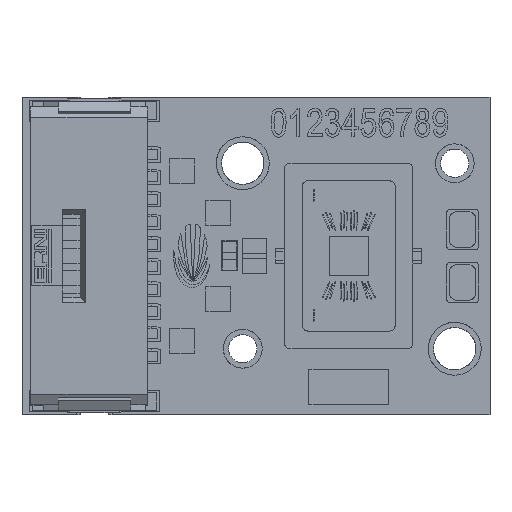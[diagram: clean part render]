
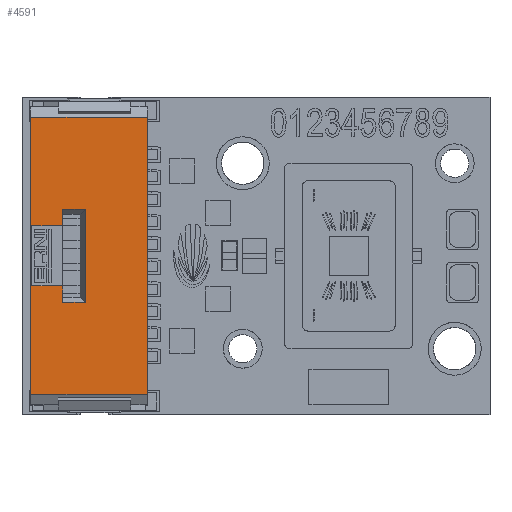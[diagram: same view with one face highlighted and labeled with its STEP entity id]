
A CAD part, top view. The second image highlights one B-rep face of the part: STEP entity #4591.
In plain terms, the highlighted planar face has unit normal (0, 0, 1).
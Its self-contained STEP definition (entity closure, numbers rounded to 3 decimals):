
#16=FACE_BOUND('',#6382,.T.);
#4591=ADVANCED_FACE('',(#5486,#16),#18184,.T.);
#5486=FACE_OUTER_BOUND('',#6381,.T.);
#6381=EDGE_LOOP('',(#7439,#7440,#7441,#7442));
#6382=EDGE_LOOP('',(#7443,#7444,#7445,#7446,#7447,#7448,#7449,#7450));
#7439=ORIENTED_EDGE('',*,*,#12171,.T.);
#7440=ORIENTED_EDGE('',*,*,#12172,.T.);
#7441=ORIENTED_EDGE('',*,*,#12173,.T.);
#7442=ORIENTED_EDGE('',*,*,#12174,.T.);
#7443=ORIENTED_EDGE('',*,*,#12182,.T.);
#7444=ORIENTED_EDGE('',*,*,#12175,.T.);
#7445=ORIENTED_EDGE('',*,*,#12176,.T.);
#7446=ORIENTED_EDGE('',*,*,#12177,.T.);
#7447=ORIENTED_EDGE('',*,*,#12178,.T.);
#7448=ORIENTED_EDGE('',*,*,#12179,.T.);
#7449=ORIENTED_EDGE('',*,*,#12180,.T.);
#7450=ORIENTED_EDGE('',*,*,#12181,.T.);
#12171=EDGE_CURVE('',#16586,#16587,#14551,.T.);
#12172=EDGE_CURVE('',#16587,#16588,#14552,.T.);
#12173=EDGE_CURVE('',#16588,#16589,#14553,.T.);
#12174=EDGE_CURVE('',#16589,#16586,#14554,.T.);
#12175=EDGE_CURVE('',#16590,#16591,#14555,.T.);
#12176=EDGE_CURVE('',#16591,#16592,#14556,.T.);
#12177=EDGE_CURVE('',#16592,#16593,#14557,.T.);
#12178=EDGE_CURVE('',#16593,#16594,#14558,.T.);
#12179=EDGE_CURVE('',#16594,#16595,#14559,.T.);
#12180=EDGE_CURVE('',#16595,#16596,#14560,.T.);
#12181=EDGE_CURVE('',#16596,#16597,#14561,.T.);
#12182=EDGE_CURVE('',#16597,#16590,#14562,.T.);
#14551=B_SPLINE_CURVE_WITH_KNOTS('',1,(#21979,#21980),.UNSPECIFIED.,.F.,
 .F.,(2,2),(0.,6.6),.UNSPECIFIED.);
#14552=B_SPLINE_CURVE_WITH_KNOTS('',1,(#21981,#21982),.UNSPECIFIED.,.F.,
 .F.,(2,2),(0.,15.68),.UNSPECIFIED.);
#14553=B_SPLINE_CURVE_WITH_KNOTS('',1,(#21983,#21984),.UNSPECIFIED.,.F.,
 .F.,(2,2),(0.,6.6),.UNSPECIFIED.);
#14554=B_SPLINE_CURVE_WITH_KNOTS('',1,(#21985,#21986),.UNSPECIFIED.,.F.,
 .F.,(2,2),(0.,15.68),.UNSPECIFIED.);
#14555=B_SPLINE_CURVE_WITH_KNOTS('',1,(#21987,#21988),.UNSPECIFIED.,.F.,
 .F.,(2,2),(0.,1.289),.UNSPECIFIED.);
#14556=B_SPLINE_CURVE_WITH_KNOTS('',1,(#21989,#21990),.UNSPECIFIED.,.F.,
 .F.,(2,2),(0.,0.939),.UNSPECIFIED.);
#14557=B_SPLINE_CURVE_WITH_KNOTS('',1,(#21991,#21992),.UNSPECIFIED.,.F.,
 .F.,(2,2),(0.,1.75),.UNSPECIFIED.);
#14558=B_SPLINE_CURVE_WITH_KNOTS('',1,(#21993,#21994),.UNSPECIFIED.,.F.,
 .F.,(2,2),(0.,3.4),.UNSPECIFIED.);
#14559=B_SPLINE_CURVE_WITH_KNOTS('',1,(#21995,#21996),.UNSPECIFIED.,.F.,
 .F.,(2,2),(0.,1.75),.UNSPECIFIED.);
#14560=B_SPLINE_CURVE_WITH_KNOTS('',1,(#21997,#21998),.UNSPECIFIED.,.F.,
 .F.,(2,2),(0.,0.939),.UNSPECIFIED.);
#14561=B_SPLINE_CURVE_WITH_KNOTS('',1,(#21999,#22000),.UNSPECIFIED.,.F.,
 .F.,(2,2),(0.,1.289),.UNSPECIFIED.);
#14562=B_SPLINE_CURVE_WITH_KNOTS('',1,(#22001,#22002),.UNSPECIFIED.,.F.,
 .F.,(2,2),(0.,5.277),.UNSPECIFIED.);
#16586=VERTEX_POINT('',#21223);
#16587=VERTEX_POINT('',#21224);
#16588=VERTEX_POINT('',#21225);
#16589=VERTEX_POINT('',#21226);
#16590=VERTEX_POINT('',#21227);
#16591=VERTEX_POINT('',#21228);
#16592=VERTEX_POINT('',#21229);
#16593=VERTEX_POINT('',#21230);
#16594=VERTEX_POINT('',#21231);
#16595=VERTEX_POINT('',#21232);
#16596=VERTEX_POINT('',#21233);
#16597=VERTEX_POINT('',#21234);
#18184=PLANE('',#19031);
#19031=AXIS2_PLACEMENT_3D('',#20684,#19820,$);
#19820=DIRECTION('',(0.,0.,1.));
#20684=CARTESIAN_POINT('',(-10.74,9.408,3.527));
#21223=CARTESIAN_POINT('',(-11.4,7.84,3.527));
#21224=CARTESIAN_POINT('',(-18.,7.84,3.527));
#21225=CARTESIAN_POINT('',(-18.,-7.84,3.527));
#21226=CARTESIAN_POINT('',(-11.4,-7.84,3.527));
#21227=CARTESIAN_POINT('',(-14.911,-2.639,3.527));
#21228=CARTESIAN_POINT('',(-16.2,-2.639,3.527));
#21229=CARTESIAN_POINT('',(-16.2,-1.7,3.527));
#21230=CARTESIAN_POINT('',(-17.95,-1.7,3.527));
#21231=CARTESIAN_POINT('',(-17.95,1.7,3.527));
#21232=CARTESIAN_POINT('',(-16.2,1.7,3.527));
#21233=CARTESIAN_POINT('',(-16.2,2.639,3.527));
#21234=CARTESIAN_POINT('',(-14.911,2.639,3.527));
#21979=CARTESIAN_POINT('',(-11.4,7.84,3.527));
#21980=CARTESIAN_POINT('',(-18.,7.84,3.527));
#21981=CARTESIAN_POINT('',(-18.,7.84,3.527));
#21982=CARTESIAN_POINT('',(-18.,-7.84,3.527));
#21983=CARTESIAN_POINT('',(-18.,-7.84,3.527));
#21984=CARTESIAN_POINT('',(-11.4,-7.84,3.527));
#21985=CARTESIAN_POINT('',(-11.4,-7.84,3.527));
#21986=CARTESIAN_POINT('',(-11.4,7.84,3.527));
#21987=CARTESIAN_POINT('',(-14.911,-2.639,3.527));
#21988=CARTESIAN_POINT('',(-16.2,-2.639,3.527));
#21989=CARTESIAN_POINT('',(-16.2,-2.639,3.527));
#21990=CARTESIAN_POINT('',(-16.2,-1.7,3.527));
#21991=CARTESIAN_POINT('',(-16.2,-1.7,3.527));
#21992=CARTESIAN_POINT('',(-17.95,-1.7,3.527));
#21993=CARTESIAN_POINT('',(-17.95,-1.7,3.527));
#21994=CARTESIAN_POINT('',(-17.95,1.7,3.527));
#21995=CARTESIAN_POINT('',(-17.95,1.7,3.527));
#21996=CARTESIAN_POINT('',(-16.2,1.7,3.527));
#21997=CARTESIAN_POINT('',(-16.2,1.7,3.527));
#21998=CARTESIAN_POINT('',(-16.2,2.639,3.527));
#21999=CARTESIAN_POINT('',(-16.2,2.639,3.527));
#22000=CARTESIAN_POINT('',(-14.911,2.639,3.527));
#22001=CARTESIAN_POINT('',(-14.911,2.639,3.527));
#22002=CARTESIAN_POINT('',(-14.911,-2.639,3.527));
